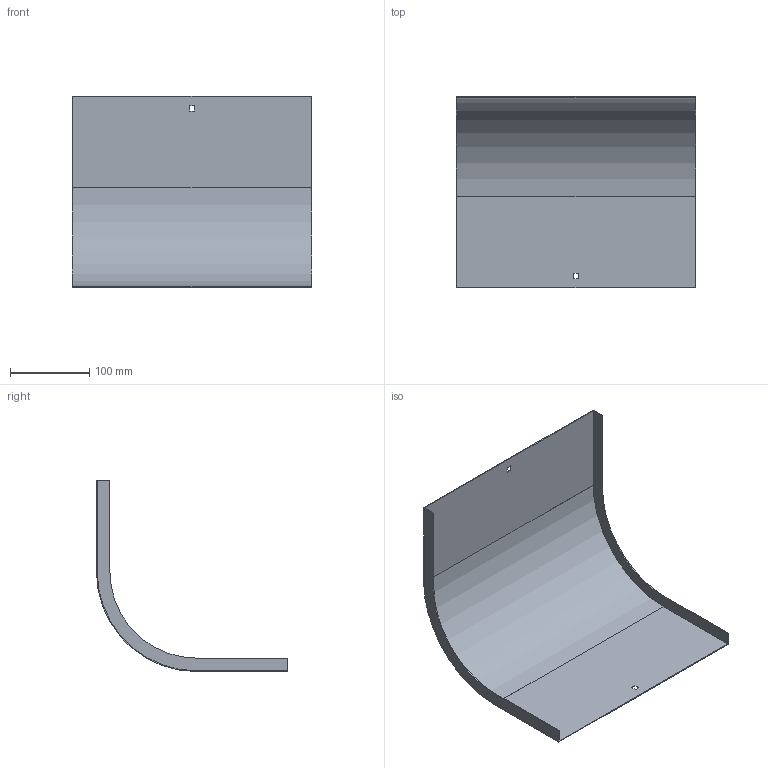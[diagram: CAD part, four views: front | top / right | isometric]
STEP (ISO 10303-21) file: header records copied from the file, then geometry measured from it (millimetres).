
FILE_DESCRIPTION (( 'STEP AP214' ), '1' );
FILE_NAME ('OD9_307.step', '2025-07-16T09:13:20', ( '' ), ( '' ), 'SwSTEP 2.0', 'SolidWorks 2023', '' );
FILE_SCHEMA (( 'AUTOMOTIVE_DESIGN' ));
Length unit declared in the file: millimetre
Products named in the file (1): OD9_307
Bounding box: 302 x 241 x 241 mm (x, y, z)
Volume: 142151.8 mm3; surface area: 285827.6 mm2
Topology: 1 solids, 1 shells, 26 faces, 72 edges, 48 vertices
Faces by surface type: plane 22, cylinder 4
Entity records: 855 total; most frequent: CARTESIAN_POINT 147, ORIENTED_EDGE 144, DIRECTION 134, EDGE_CURVE 72, VECTOR 64, LINE 64, VERTEX_POINT 48, AXIS2_PLACEMENT_3D 35
